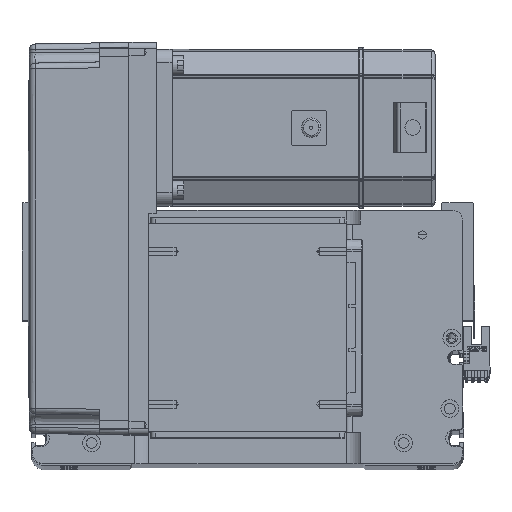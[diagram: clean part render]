
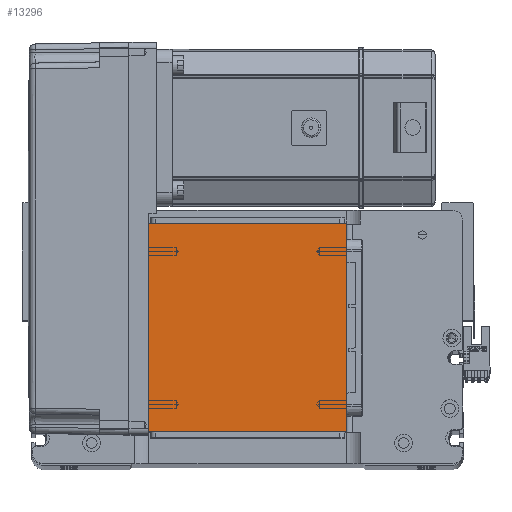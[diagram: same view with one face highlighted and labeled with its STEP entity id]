
A CAD part, top view. The second image highlights one B-rep face of the part: STEP entity #13296.
In plain terms, the highlighted planar face has unit normal (0, 0, 1).
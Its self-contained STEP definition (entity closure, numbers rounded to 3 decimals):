
#1611 = EDGE_CURVE ( 'NONE', #28727, #20366, #5750, .T. ) ;
#1878 = ORIENTED_EDGE ( 'NONE', *, *, #24677, .T. ) ;
#2363 = CARTESIAN_POINT ( 'NONE',  ( 0., 0., 115. ) ) ;
#3145 = CARTESIAN_POINT ( 'NONE',  ( 50.5, 122., 115. ) ) ;
#3632 = CARTESIAN_POINT ( 'NONE',  ( -50.5, 16., 115. ) ) ;
#5750 = LINE ( 'NONE', #6521, #27367 ) ;
#6521 = CARTESIAN_POINT ( 'NONE',  ( -50.5, 122., 115. ) ) ;
#6787 = ORIENTED_EDGE ( 'NONE', *, *, #1611, .T. ) ;
#7462 = VERTEX_POINT ( 'NONE', #35000 ) ;
#8304 = VERTEX_POINT ( 'NONE', #3145 ) ;
#9633 = EDGE_CURVE ( 'NONE', #8304, #28727, #22849, .T. ) ;
#10064 = PLANE ( 'NONE',  #23060 ) ;
#13296 = ADVANCED_FACE ( 'NONE', ( #29150 ), #10064, .T. ) ;
#14175 = CARTESIAN_POINT ( 'NONE',  ( -50.5, 16., 115. ) ) ;
#18007 = ORIENTED_EDGE ( 'NONE', *, *, #9633, .T. ) ;
#20366 = VERTEX_POINT ( 'NONE', #14175 ) ;
#22849 = LINE ( 'NONE', #33589, #47052 ) ;
#23060 = AXIS2_PLACEMENT_3D ( 'NONE', #2363, #38321, #26359 ) ;
#24677 = EDGE_CURVE ( 'NONE', #7462, #8304, #31376, .T. ) ;
#26259 = CARTESIAN_POINT ( 'NONE',  ( 50.5, 122., 115. ) ) ;
#26308 = EDGE_LOOP ( 'NONE', ( #6787, #48045, #1878, #18007 ) ) ;
#26359 = DIRECTION ( 'NONE',  ( 1., 0., 0. ) ) ;
#26493 = VECTOR ( 'NONE', #39926, 1000. ) ;
#27292 = CARTESIAN_POINT ( 'NONE',  ( -50.5, 122., 115. ) ) ;
#27367 = VECTOR ( 'NONE', #30673, 1000. ) ;
#28727 = VERTEX_POINT ( 'NONE', #27292 ) ;
#29150 = FACE_OUTER_BOUND ( 'NONE', #26308, .T. ) ;
#30673 = DIRECTION ( 'NONE',  ( 0., -1., 0. ) ) ;
#31376 = LINE ( 'NONE', #26259, #39646 ) ;
#32928 = LINE ( 'NONE', #3632, #26493 ) ;
#33589 = CARTESIAN_POINT ( 'NONE',  ( -50.5, 122., 115. ) ) ;
#34494 = DIRECTION ( 'NONE',  ( 0., 1., 0. ) ) ;
#35000 = CARTESIAN_POINT ( 'NONE',  ( 50.5, 16., 115. ) ) ;
#37843 = DIRECTION ( 'NONE',  ( -1., 0., 0. ) ) ;
#38321 = DIRECTION ( 'NONE',  ( 0., 0., 1. ) ) ;
#39646 = VECTOR ( 'NONE', #34494, 1000. ) ;
#39926 = DIRECTION ( 'NONE',  ( 1., 0., 0. ) ) ;
#46824 = EDGE_CURVE ( 'NONE', #20366, #7462, #32928, .T. ) ;
#47052 = VECTOR ( 'NONE', #37843, 1000. ) ;
#48045 = ORIENTED_EDGE ( 'NONE', *, *, #46824, .T. ) ;
